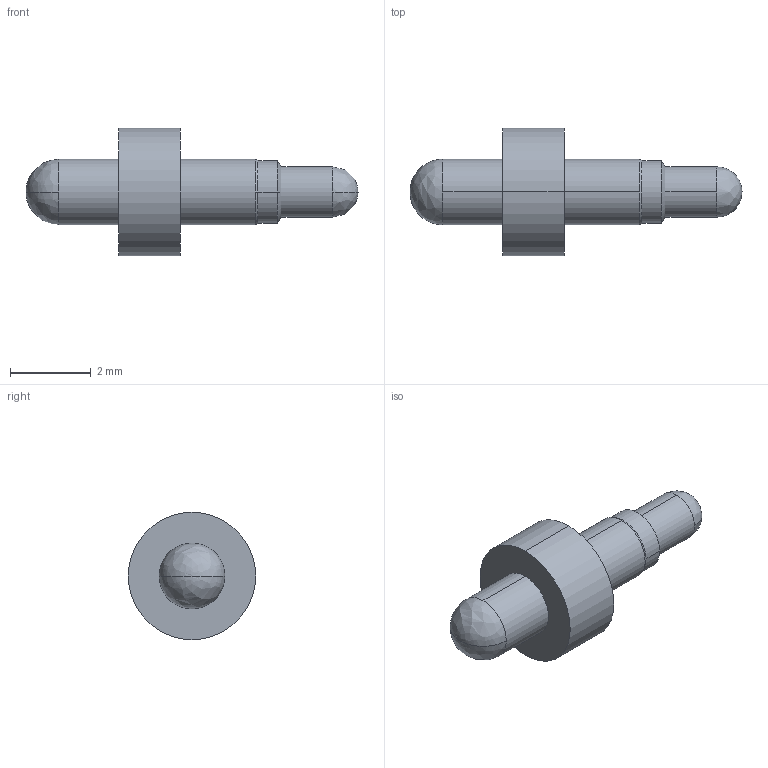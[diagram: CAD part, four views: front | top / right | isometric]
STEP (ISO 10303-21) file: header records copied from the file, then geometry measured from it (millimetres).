
FILE_DESCRIPTION (( 'STEP AP214' ), '1' );
FILE_NAME ('PC5JS.STEP', '2021-07-22T10:29:33', ( '' ), ( '' ), 'SwSTEP 2.0', 'SolidWorks 2021', '' );
FILE_SCHEMA (( 'AUTOMOTIVE_DESIGN' ));
Length unit declared in the file: inch
Products named in the file (1): PC5JS
Bounding box: 8.2 x 3.15 x 3.15 mm (x, y, z)
Volume: 23.1 mm3; surface area: 58.6 mm2
Topology: 1 solids, 1 shells, 20 faces, 50 edges, 30 vertices
Faces by surface type: cylinder 10, bspline 4, cone 4, plane 2
Entity records: 670 total; most frequent: CARTESIAN_POINT 157, DIRECTION 112, ORIENTED_EDGE 92, AXIS2_PLACEMENT_3D 49, EDGE_CURVE 46, CIRCLE 32, VERTEX_POINT 30, EDGE_LOOP 22
